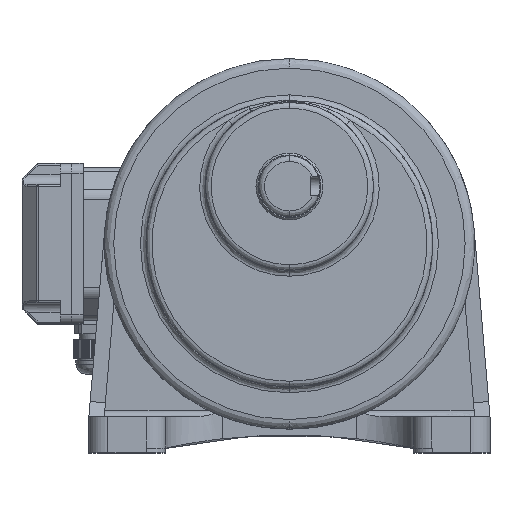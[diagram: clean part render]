
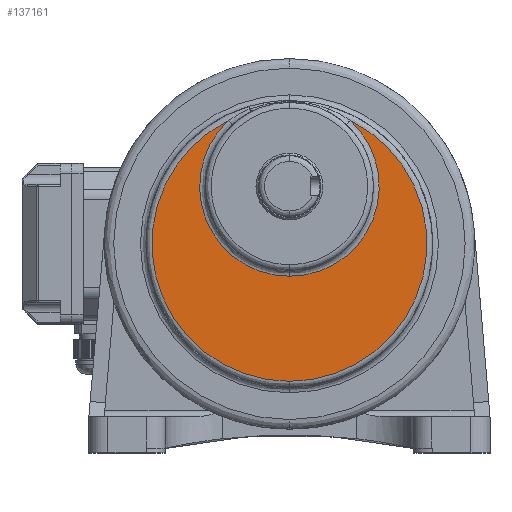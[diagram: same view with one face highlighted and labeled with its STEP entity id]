
A CAD part, top view. The second image highlights one B-rep face of the part: STEP entity #137161.
In plain terms, the highlighted planar face has unit normal (0, 0, 1).
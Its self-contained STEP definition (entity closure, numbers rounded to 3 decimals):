
#990 = CARTESIAN_POINT ( 'NONE',  ( 41.529, -177.513, 176.948 ) ) ;
#2125 = AXIS2_PLACEMENT_3D ( 'NONE', #63763, #50643, #108276 ) ;
#7504 = ORIENTED_EDGE ( 'NONE', *, *, #129440, .T. ) ;
#7657 = ORIENTED_EDGE ( 'NONE', *, *, #43445, .T. ) ;
#8232 = DIRECTION ( 'NONE',  ( 0., -1., 0. ) ) ;
#12591 = DIRECTION ( 'NONE',  ( 1., 0., 0. ) ) ;
#13474 = AXIS2_PLACEMENT_3D ( 'NONE', #109711, #42511, #8232 ) ;
#19954 = CIRCLE ( 'NONE', #47901, 72. ) ;
#33844 = CIRCLE ( 'NONE', #124794, 47. ) ;
#34874 = VERTEX_POINT ( 'NONE', #91118 ) ;
#36117 = VERTEX_POINT ( 'NONE', #95809 ) ;
#37597 = ORIENTED_EDGE ( 'NONE', *, *, #134818, .T. ) ;
#42511 = DIRECTION ( 'NONE',  ( 0., 0., -1. ) ) ;
#43445 = EDGE_CURVE ( 'NONE', #36117, #34874, #33844, .T. ) ;
#44355 = AXIS2_PLACEMENT_3D ( 'NONE', #111162, #57869, #12591 ) ;
#46982 = VERTEX_POINT ( 'NONE', #49525 ) ;
#47901 = AXIS2_PLACEMENT_3D ( 'NONE', #70644, #53743, #99039 ) ;
#49525 = CARTESIAN_POINT ( 'NONE',  ( 41.529, -279.513, 176.948 ) ) ;
#50643 = DIRECTION ( 'NONE',  ( 0., 0., 1. ) ) ;
#53592 = DIRECTION ( 'NONE',  ( 0., -1., 0. ) ) ;
#53743 = DIRECTION ( 'NONE',  ( 0., 0., 1. ) ) ;
#57869 = DIRECTION ( 'NONE',  ( 0., 0., 1. ) ) ;
#63763 = CARTESIAN_POINT ( 'NONE',  ( 41.529, -207.513, 176.948 ) ) ;
#70644 = CARTESIAN_POINT ( 'NONE',  ( 41.529, -207.513, 176.948 ) ) ;
#74551 = ORIENTED_EDGE ( 'NONE', *, *, #87125, .T. ) ;
#78303 = EDGE_LOOP ( 'NONE', ( #37597, #74551, #7504, #7657 ) ) ;
#78729 = CARTESIAN_POINT ( 'NONE',  ( 73.356, -142.93, 176.948 ) ) ;
#80486 = FACE_OUTER_BOUND ( 'NONE', #78303, .T. ) ;
#87125 = EDGE_CURVE ( 'NONE', #46982, #141099, #19954, .T. ) ;
#87934 = DIRECTION ( 'NONE',  ( 0., 0., -1. ) ) ;
#91118 = CARTESIAN_POINT ( 'NONE',  ( 9.701, -142.93, 176.948 ) ) ;
#95809 = CARTESIAN_POINT ( 'NONE',  ( 41.529, -224.513, 176.948 ) ) ;
#99039 = DIRECTION ( 'NONE',  ( 0., -1., 0. ) ) ;
#102074 = CIRCLE ( 'NONE', #13474, 47. ) ;
#108276 = DIRECTION ( 'NONE',  ( 0., -1., 0. ) ) ;
#109711 = CARTESIAN_POINT ( 'NONE',  ( 41.529, -177.513, 176.948 ) ) ;
#111162 = CARTESIAN_POINT ( 'NONE',  ( 119.529, -129.45, 176.948 ) ) ;
#113334 = PLANE ( 'NONE',  #44355 ) ;
#124794 = AXIS2_PLACEMENT_3D ( 'NONE', #990, #87934, #53592 ) ;
#129440 = EDGE_CURVE ( 'NONE', #141099, #36117, #102074, .T. ) ;
#134818 = EDGE_CURVE ( 'NONE', #34874, #46982, #141998, .T. ) ;
#137161 = ADVANCED_FACE ( 'NONE', ( #80486 ), #113334, .T. ) ;
#141099 = VERTEX_POINT ( 'NONE', #78729 ) ;
#141998 = CIRCLE ( 'NONE', #2125, 72. ) ;
